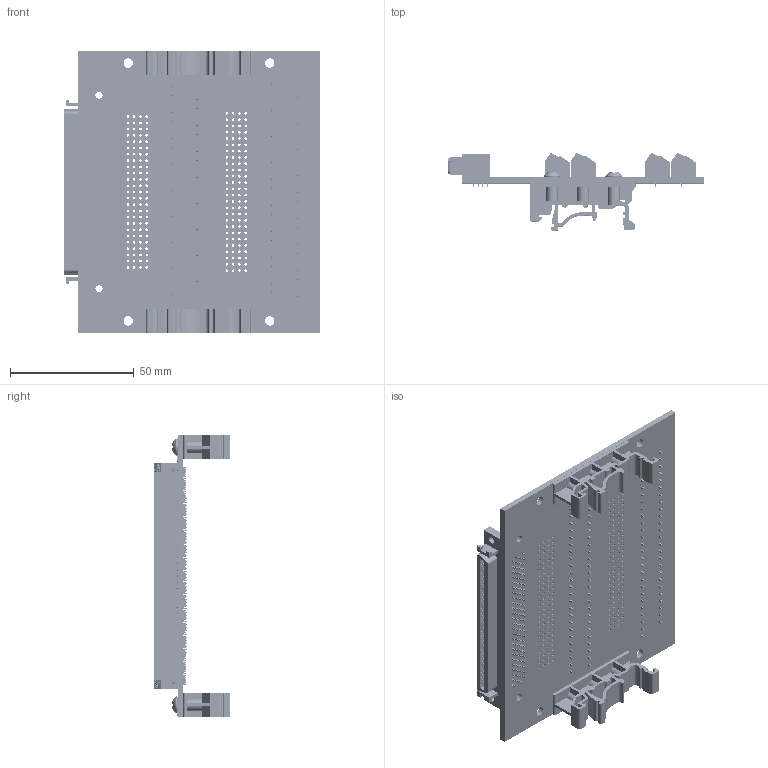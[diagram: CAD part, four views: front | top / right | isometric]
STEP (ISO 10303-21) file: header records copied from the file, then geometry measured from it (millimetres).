
FILE_DESCRIPTION (( 'STEP AP214' ), '1' );
FILE_NAME ('brkamc100f-r4-din_rev_a.step', '2022-11-18T21:14:08', ( '' ), ( '' ), 'SwSTEP 2.0', 'SolidWorks 2018', '' );
FILE_SCHEMA (( 'AUTOMOTIVE_DESIGN' ));
Length unit declared in the file: inch
Products named in the file (7): three_position_angled_green_screw_terminal; 100_pin_mini_d_connector_for-assembly; BRKAMC100F-PCB; two_position_angled_green_screw_terminal; brkamc100f-r4-din_rev_a; Screw_SCSMPP-6-0.375_90184A127; dinm01
Assembly tree (44 placements, depth 2):
  brkamc100f-r4-din_rev_a
    BRKAMC100F-PCB
    100_pin_mini_d_connector_for-assembly
    three_position_angled_green_screw_terminal  x29
    two_position_angled_green_screw_terminal  x7
    dinm01  x2
    Screw_SCSMPP-6-0.375_90184A127  x4
Bounding box: 103.12 x 31.07 x 114.3 mm (x, y, z)
Volume: 63008.5 mm3; surface area: 71363.4 mm2
Topology: 44 solids, 87 shells, 17476 faces, 46381 edges, 30405 vertices
Faces by surface type: plane 11492, bspline 2797, cylinder 2226, torus 614, cone 339, sphere 8
Entity records: 420343 total; most frequent: CARTESIAN_POINT 172954, ORIENTED_EDGE 40610, DIRECTION 27603, EDGE_CURVE 20305, VERTEX_POINT 13506, VECTOR 12805, LINE 12805, EDGE_LOOP 9025
